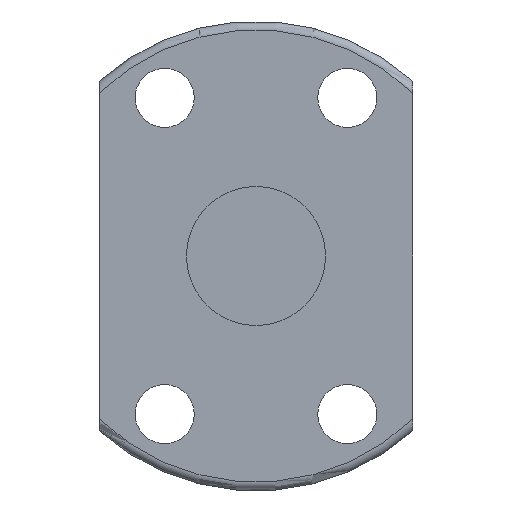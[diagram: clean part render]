
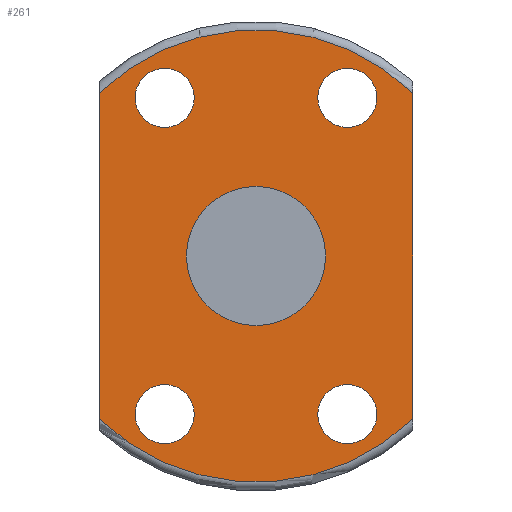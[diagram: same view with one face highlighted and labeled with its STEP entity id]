
A CAD part, front view. The second image highlights one B-rep face of the part: STEP entity #261.
In plain terms, the highlighted planar face has unit normal (0, -1, 0).
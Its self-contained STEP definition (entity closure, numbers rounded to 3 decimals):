
#15 = DIRECTION ( 'NONE',  ( 0., -1., 0. ) ) ;
#32 = FACE_BOUND ( 'NONE', #461, .T. ) ;
#58 = AXIS2_PLACEMENT_3D ( 'NONE', #436, #15, #420 ) ;
#60 = VERTEX_POINT ( 'NONE', #113 ) ;
#64 = ORIENTED_EDGE ( 'NONE', *, *, #405, .F. ) ;
#67 = ORIENTED_EDGE ( 'NONE', *, *, #437, .T. ) ;
#70 = EDGE_CURVE ( 'NONE', #406, #406, #348, .T. ) ;
#88 = DIRECTION ( 'NONE',  ( 0., 0., -1. ) ) ;
#91 = LINE ( 'NONE', #439, #402 ) ;
#106 = CIRCLE ( 'NONE', #446, 13. ) ;
#113 = CARTESIAN_POINT ( 'NONE',  ( 9., -16., -9.381 ) ) ;
#151 = DIRECTION ( 'NONE',  ( 0., 0., -1. ) ) ;
#153 = DIRECTION ( 'NONE',  ( 0., -1., 0. ) ) ;
#158 = CARTESIAN_POINT ( 'NONE',  ( 0., -16., 0. ) ) ;
#159 = EDGE_CURVE ( 'NONE', #163, #163, #713, .T. ) ;
#163 = VERTEX_POINT ( 'NONE', #627 ) ;
#174 = AXIS2_PLACEMENT_3D ( 'NONE', #158, #670, #151 ) ;
#181 = DIRECTION ( 'NONE',  ( 0., 0., -1. ) ) ;
#184 = DIRECTION ( 'NONE',  ( 0., -1., 0. ) ) ;
#192 = VERTEX_POINT ( 'NONE', #656 ) ;
#207 = FACE_BOUND ( 'NONE', #230, .T. ) ;
#212 = DIRECTION ( 'NONE',  ( 0., 0., -1. ) ) ;
#224 = VERTEX_POINT ( 'NONE', #307 ) ;
#230 = EDGE_LOOP ( 'NONE', ( #598 ) ) ;
#231 = DIRECTION ( 'NONE',  ( 0., 0., -1. ) ) ;
#244 = EDGE_CURVE ( 'NONE', #692, #60, #675, .T. ) ;
#246 = CARTESIAN_POINT ( 'NONE',  ( 0., -16., 0. ) ) ;
#249 = AXIS2_PLACEMENT_3D ( 'NONE', #254, #607, #672 ) ;
#254 = CARTESIAN_POINT ( 'NONE',  ( -5.25, -16., -9.093 ) ) ;
#261 = ADVANCED_FACE ( 'NONE', ( #564, #207, #32, #626, #274 ), #513, .T. ) ;
#274 = FACE_BOUND ( 'NONE', #715, .T. ) ;
#283 = CARTESIAN_POINT ( 'NONE',  ( -5.25, -16., -10.793 ) ) ;
#285 = EDGE_LOOP ( 'NONE', ( #398, #301, #360, #67 ) ) ;
#288 = EDGE_LOOP ( 'NONE', ( #746 ) ) ;
#301 = ORIENTED_EDGE ( 'NONE', *, *, #244, .T. ) ;
#307 = CARTESIAN_POINT ( 'NONE',  ( -9., -16., 9.381 ) ) ;
#342 = CARTESIAN_POINT ( 'NONE',  ( -5.25, -16., 9.093 ) ) ;
#348 = CIRCLE ( 'NONE', #410, 1.7 ) ;
#360 = ORIENTED_EDGE ( 'NONE', *, *, #632, .F. ) ;
#385 = DIRECTION ( 'NONE',  ( 0., 0., -1. ) ) ;
#397 = VERTEX_POINT ( 'NONE', #283 ) ;
#398 = ORIENTED_EDGE ( 'NONE', *, *, #453, .T. ) ;
#402 = VECTOR ( 'NONE', #212, 1000. ) ;
#405 = EDGE_CURVE ( 'NONE', #749, #749, #700, .T. ) ;
#406 = VERTEX_POINT ( 'NONE', #409 ) ;
#408 = AXIS2_PLACEMENT_3D ( 'NONE', #730, #153, #385 ) ;
#409 = CARTESIAN_POINT ( 'NONE',  ( -5.25, -16., 7.393 ) ) ;
#410 = AXIS2_PLACEMENT_3D ( 'NONE', #342, #573, #539 ) ;
#419 = LINE ( 'NONE', #655, #663 ) ;
#420 = DIRECTION ( 'NONE',  ( 0., 0., -1. ) ) ;
#436 = CARTESIAN_POINT ( 'NONE',  ( 5.25, -16., -9.093 ) ) ;
#437 = EDGE_CURVE ( 'NONE', #192, #224, #106, .T. ) ;
#439 = CARTESIAN_POINT ( 'NONE',  ( 9., -16., 0. ) ) ;
#446 = AXIS2_PLACEMENT_3D ( 'NONE', #246, #184, #181 ) ;
#453 = EDGE_CURVE ( 'NONE', #224, #692, #419, .T. ) ;
#461 = EDGE_LOOP ( 'NONE', ( #484 ) ) ;
#484 = ORIENTED_EDGE ( 'NONE', *, *, #561, .F. ) ;
#513 = PLANE ( 'NONE',  #174 ) ;
#539 = DIRECTION ( 'NONE',  ( 0., 0., -1. ) ) ;
#540 = AXIS2_PLACEMENT_3D ( 'NONE', #572, #569, #231 ) ;
#559 = CARTESIAN_POINT ( 'NONE',  ( -9., -16., -9.381 ) ) ;
#561 = EDGE_CURVE ( 'NONE', #397, #397, #575, .T. ) ;
#564 = FACE_OUTER_BOUND ( 'NONE', #285, .T. ) ;
#569 = DIRECTION ( 'NONE',  ( 0., -1., 0. ) ) ;
#572 = CARTESIAN_POINT ( 'NONE',  ( 5.25, -16., 9.093 ) ) ;
#573 = DIRECTION ( 'NONE',  ( 0., -1., 0. ) ) ;
#575 = CIRCLE ( 'NONE', #249, 1.7 ) ;
#581 = CARTESIAN_POINT ( 'NONE',  ( 5.25, -16., 7.393 ) ) ;
#598 = ORIENTED_EDGE ( 'NONE', *, *, #159, .F. ) ;
#607 = DIRECTION ( 'NONE',  ( 0., -1., 0. ) ) ;
#626 = FACE_BOUND ( 'NONE', #288, .T. ) ;
#627 = CARTESIAN_POINT ( 'NONE',  ( 5.25, -16., -10.793 ) ) ;
#632 = EDGE_CURVE ( 'NONE', #192, #60, #91, .T. ) ;
#655 = CARTESIAN_POINT ( 'NONE',  ( -9., -16., 0. ) ) ;
#656 = CARTESIAN_POINT ( 'NONE',  ( 9., -16., 9.381 ) ) ;
#663 = VECTOR ( 'NONE', #88, 1000. ) ;
#670 = DIRECTION ( 'NONE',  ( 0., -1., 0. ) ) ;
#672 = DIRECTION ( 'NONE',  ( 0., 0., -1. ) ) ;
#675 = CIRCLE ( 'NONE', #408, 13. ) ;
#692 = VERTEX_POINT ( 'NONE', #559 ) ;
#700 = CIRCLE ( 'NONE', #540, 1.7 ) ;
#713 = CIRCLE ( 'NONE', #58, 1.7 ) ;
#715 = EDGE_LOOP ( 'NONE', ( #64 ) ) ;
#730 = CARTESIAN_POINT ( 'NONE',  ( 0., -16., 0. ) ) ;
#746 = ORIENTED_EDGE ( 'NONE', *, *, #70, .F. ) ;
#749 = VERTEX_POINT ( 'NONE', #581 ) ;
